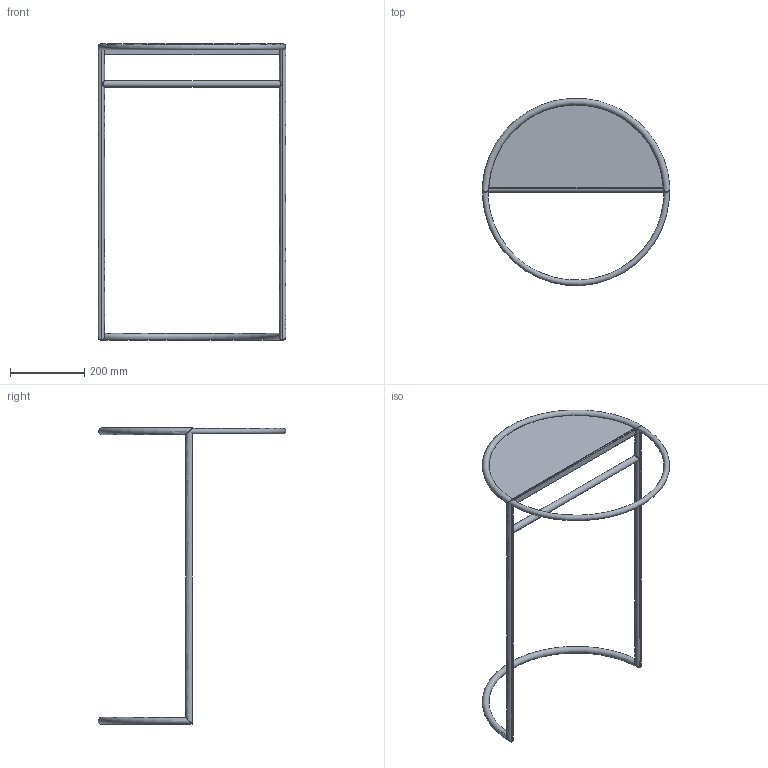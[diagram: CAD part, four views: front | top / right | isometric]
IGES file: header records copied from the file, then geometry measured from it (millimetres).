
Start section: Data from Parasolid IGES Translator 22.0.50, Copyright(c) 2006 Siemens P LM Software. All Rights Reserved.
Global section: file name: noorth_RO_H80_D30_W45_4928.igs; native system: By Siemens PLM Incorporated; preprocessor: XPlus GENERIC/IGES 22.0.50; author: Noname; organization: Noname; date: 20251123.105015; units: metre
Bounding box: 507.69 x 506.1 x 800 mm (x, y, z)
Volume: 862845.7 mm3; surface area: 520970 mm2
Topology: 6 solids, 6 shells, 41 faces, 91 edges, 63 vertices
Faces by surface type: plane 18, bspline 12, cylinder 8, torus 3
Full cylindrical faces by diameter (mm): 5.7 x3, 15 x1, 18 x1
